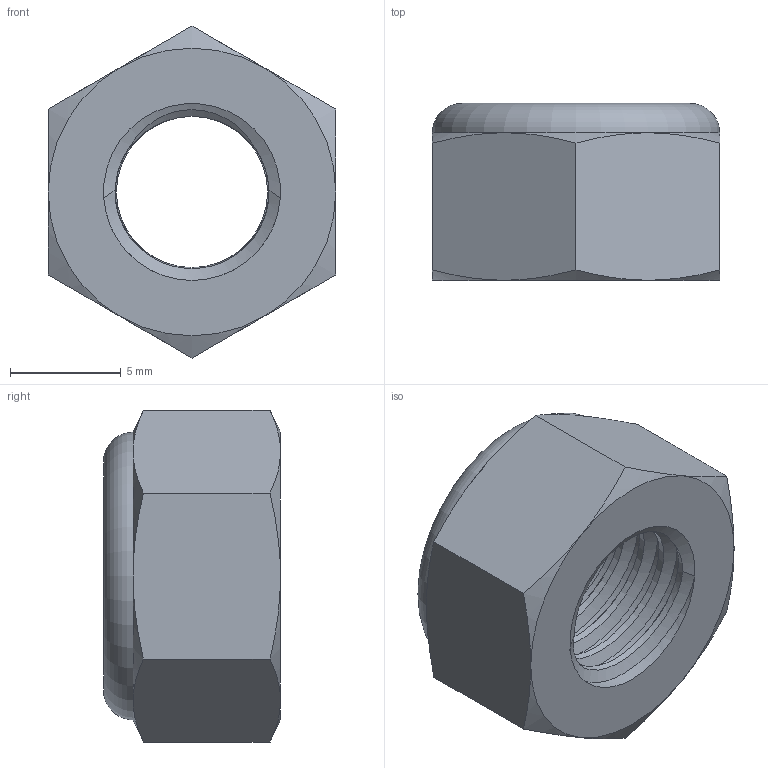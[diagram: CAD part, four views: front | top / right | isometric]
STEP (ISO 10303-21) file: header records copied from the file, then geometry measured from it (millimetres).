
FILE_DESCRIPTION((''),'2;1');
FILE_NAME('C:\Andys Backup Data\WEBSITE\DREAMWEAVER\MiniTec\Products\Screw_And_Nuts\Catalog_Pages\Hex_Nuts\CAD\Step\21.1526_2 M8 NYLON INSERT HEX LOCKNUT.stp','2016-10-18T10:46:46',('amoles'),(''),'Autodesk Inventor 2012','Autodesk Inventor 2012','');
FILE_SCHEMA(('AUTOMOTIVE_DESIGN { 1 0 10303 214 1 1 1 1 }'));
Length unit declared in the file: millimetre
Products named in the file (3): 21.1526_2 M8 NYLON INSERT HEX LOCKNUT; 21.1526_2 M8 HEX LOCKNUT STEEL NUT; 21.1526_2 M8 HEX LOCKNUT NYLON INSERT
Assembly tree (2 placements, depth 2):
  21.1526_2 M8 NYLON INSERT HEX LOCKNUT
    21.1526_2 M8 HEX LOCKNUT STEEL NUT
    21.1526_2 M8 HEX LOCKNUT NYLON INSERT
Bounding box: 13 x 8 x 15.01 mm (x, y, z)
Volume: 773.8 mm3; surface area: 1136.6 mm2
Topology: 2 solids, 2 shells, 55 faces, 131 edges, 82 vertices
Faces by surface type: cone 25, cylinder 15, plane 12, torus 3
Full cylindrical faces by diameter (mm): 6.832 x1, 6.964 x4, 8 x5, 8.583 x1
Entity records: 1864 total; most frequent: CARTESIAN_POINT 719, DIRECTION 212, ORIENTED_EDGE 206, AXIS2_PLACEMENT_3D 103, EDGE_CURVE 103, EDGE_LOOP 84, VERTEX_POINT 77, FACE_OUTER_BOUND 55
